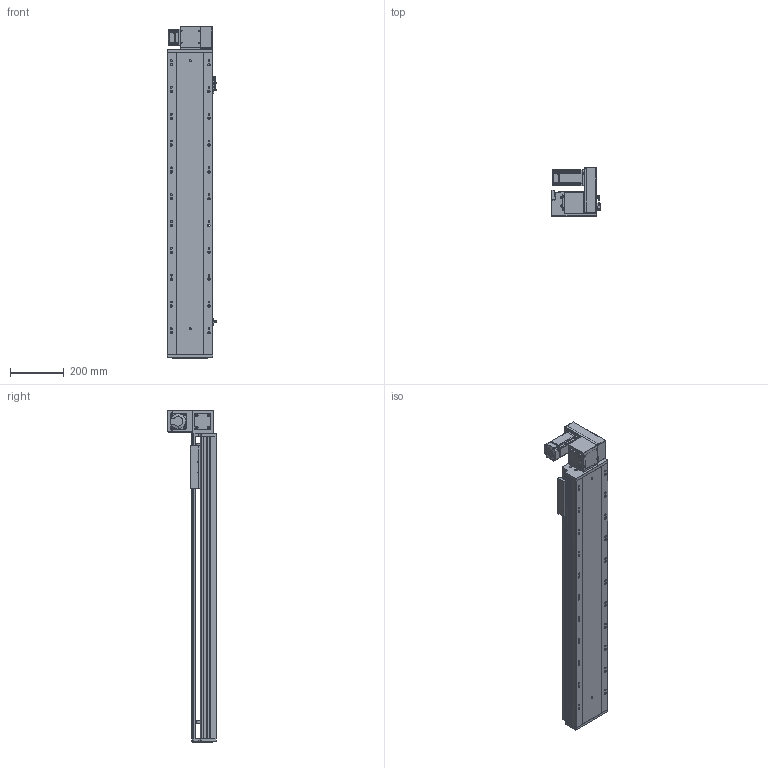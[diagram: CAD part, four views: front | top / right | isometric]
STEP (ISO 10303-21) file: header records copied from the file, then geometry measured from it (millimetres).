
FILE_DESCRIPTION (( 'STEP AP203' ), '1' );
FILE_NAME ('RY170-T-300-UR-P400W.SLDASM_850.step', '2021-03-01T09:27:33', ( '盈信电脑' ), ( '东莞市道滘镇水果街19号' ), 'SwSTEP 2.0', 'SolidWorks 2012', '' );
FILE_SCHEMA (( 'CONFIG_CONTROL_DESIGN' ));
Length unit declared in the file: millimetre
Products named in the file (18): RY170-T-300-UR-P400W.SLDASM_850; 滅袉蝶18-10; 15; RY120-T主同步轮轴承压盖; RY170-T蹟翐M4; RY170-T肮祭謫裔啣; RY170-T肮祭湍揤踡輸2; RY170-T肮祭湍揤踡輸1; RY170同步轮电机安装板(400W); RY170肮祭謫萇儂欶; RY170翋肮祭謫釱; RY170肮祭謫ヶ裔啣; RY170外置感应片(200共用）; 覜茼ん672; RY170綴裔啣; RY170肮祭湍臏賑輸; RY170-T-300肮祭謫倰第裔啣-DR_850; RY170-T-300肮祭謫倰第菁釱-DR_850
Assembly tree (22 placements, depth 2):
  RY170-T-300-UR-P400W.SLDASM_850
    RY170-T-300肮祭謫倰第菁釱-DR_850
    RY170肮祭湍臏賑輸
    RY170-T-300肮祭謫倰第裔啣-DR_850
    RY170綴裔啣
    覜茼ん672  x3
    RY170外置感应片(200共用）
    RY170肮祭謫ヶ裔啣
    RY170翋肮祭謫釱
    RY170同步轮电机安装板(400W)
    RY170肮祭謫萇儂欶
    RY170-T肮祭湍揤踡輸1  x2
    RY170-T肮祭湍揤踡輸2  x2
    RY120-T主同步轮轴承压盖
    RY170-T肮祭謫裔啣
    RY170-T蹟翐M4
    滅袉蝶18-10  x2
    15
Bounding box: 183.7 x 182 x 1238 mm (x, y, z)
Volume: 6269827.5 mm3; surface area: 2126857 mm2
Topology: 22 solids, 22 shells, 2832 faces, 7966 edges, 5129 vertices
Faces by surface type: cylinder 1306, plane 1268, cone 228, bspline 30
Entity records: 86416 total; most frequent: CARTESIAN_POINT 20120, ORIENTED_EDGE 13656, DIRECTION 13186, EDGE_CURVE 6828, AXIS2_PLACEMENT_3D 4645, VERTEX_POINT 4485, VECTOR 3896, LINE 3896
